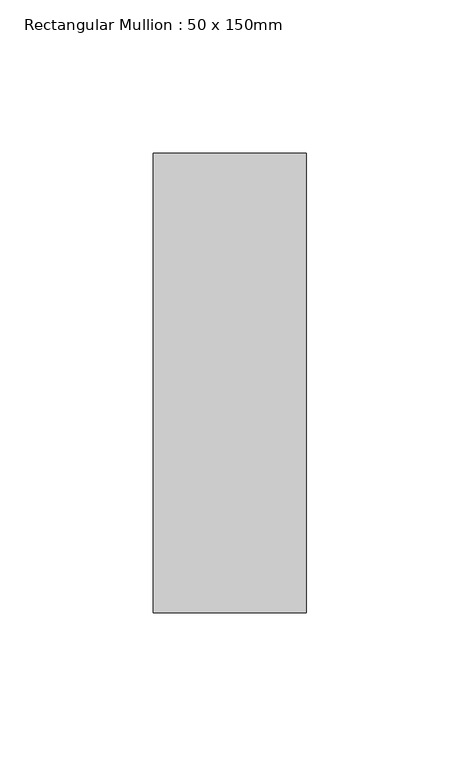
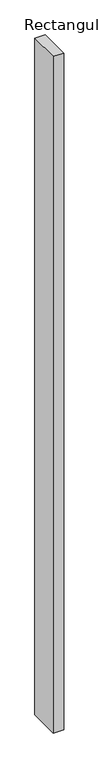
"""IFC4 building model written with IfcOpenShell, lengths in millimetres: member geometry, Rectangular Mullion : 50 x 150mm."""

from ifc_helpers import new_model, si_unit, frame, origin, place, context, project, spatial, polyline, outline, extrude, source, transform, mapped, element, save


def rectangular_mullion_50_x_150mm_ca64fab8(model_context):
    return source(origin(), model_context, "Body", "SweptSolid", [
        extrude(outline(polyline([(0.0, 75.0), (0.0, -75.0), (-50.0, -75.0), (-50.0, 75.0), (0.0, 75.0)])), frame((0.0, 0.0, -3400.0), z_axis=(0.0, 0.0, 1.0), x_axis=(1.0, 0.0, 0.0)), (0.0, 0.0, 1.0), 3400.0),
    ])


if __name__ == "__main__":
    model = new_model("IFC4")
    model_context = context("Model", 3, world=origin())
    ifc_project = project(units=[si_unit("LENGTHUNIT", "METRE", prefix="MILLI")], contexts=[model_context])
    site = spatial("IfcSite", under=ifc_project)
    building = spatial("IfcBuilding", under=site)
    placement = place(None, origin())
    rectangular_mullion_50_x_150mm_shape = rectangular_mullion_50_x_150mm_ca64fab8(model_context)
    element("IfcMember", 1, ObjectType="Rectangular Mullion : 50 x 150mm", at=placement, inside=building, context=model_context, shape_type="MappedRepresentation", body=[
        mapped(rectangular_mullion_50_x_150mm_shape, transform((0.0, 0.0, 0.0), x_axis=(1.0, 0.0, 0.0), y_axis=(0.0, 1.0, 0.0), z_axis=(0.0, 0.0, 1.0))),
    ])
    save(model, "model.ifc")
